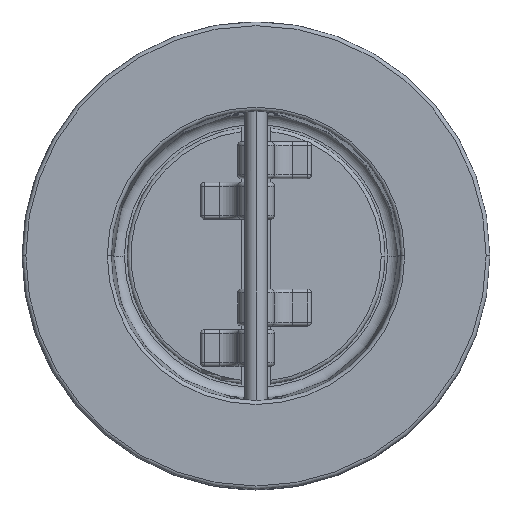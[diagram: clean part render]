
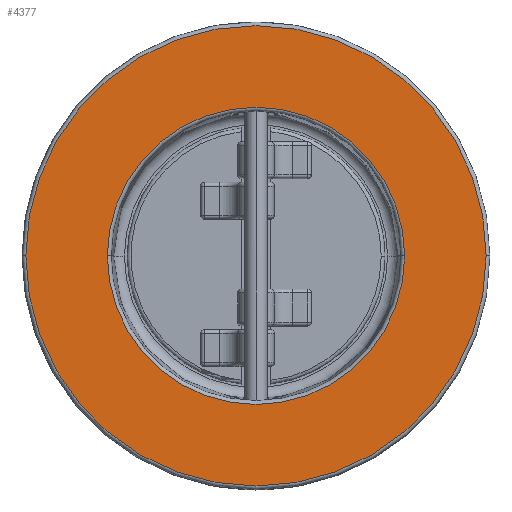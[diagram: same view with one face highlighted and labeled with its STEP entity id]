
A CAD part, top view. The second image highlights one B-rep face of the part: STEP entity #4377.
In plain terms, the highlighted planar face has unit normal (0, 0, 1).
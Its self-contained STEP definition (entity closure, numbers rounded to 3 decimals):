
#881 = DIRECTION ( 'NONE',  ( 1., 0., 0. ) ) ;
#930 = CARTESIAN_POINT ( 'NONE',  ( 40.361, 0., 23. ) ) ;
#1277 = ORIENTED_EDGE ( 'NONE', *, *, #7928, .T. ) ;
#1300 = AXIS2_PLACEMENT_3D ( 'NONE', #9359, #6125, #881 ) ;
#2011 = DIRECTION ( 'NONE',  ( 1., 0., 0. ) ) ;
#2422 = VERTEX_POINT ( 'NONE', #3208 ) ;
#2567 = PLANE ( 'NONE',  #12554 ) ;
#2689 = AXIS2_PLACEMENT_3D ( 'NONE', #6076, #11430, #2011 ) ;
#2925 = EDGE_CURVE ( 'NONE', #12832, #2422, #4875, .T. ) ;
#3123 = EDGE_CURVE ( 'NONE', #11148, #8746, #6428, .T. ) ;
#3208 = CARTESIAN_POINT ( 'NONE',  ( -40.361, 0., 23. ) ) ;
#4077 = CARTESIAN_POINT ( 'NONE',  ( 0., 0., 23. ) ) ;
#4228 = CIRCLE ( 'NONE', #11887, 40.361 ) ;
#4348 = CARTESIAN_POINT ( 'NONE',  ( -62.5, 0., 23. ) ) ;
#4377 = ADVANCED_FACE ( 'NONE', ( #4569, #8688 ), #2567, .T. ) ;
#4569 = FACE_OUTER_BOUND ( 'NONE', #6688, .T. ) ;
#4634 = CARTESIAN_POINT ( 'NONE',  ( 62.5, 0., 23. ) ) ;
#4649 = ORIENTED_EDGE ( 'NONE', *, *, #5036, .T. ) ;
#4875 = CIRCLE ( 'NONE', #5983, 40.361 ) ;
#5036 = EDGE_CURVE ( 'NONE', #2422, #12832, #4228, .T. ) ;
#5708 = CIRCLE ( 'NONE', #1300, 62.5 ) ;
#5983 = AXIS2_PLACEMENT_3D ( 'NONE', #6435, #6700, #9863 ) ;
#6076 = CARTESIAN_POINT ( 'NONE',  ( 0., 0., 23. ) ) ;
#6125 = DIRECTION ( 'NONE',  ( 0., 0., 1. ) ) ;
#6428 = CIRCLE ( 'NONE', #2689, 62.5 ) ;
#6435 = CARTESIAN_POINT ( 'NONE',  ( 0., 0., 23. ) ) ;
#6688 = EDGE_LOOP ( 'NONE', ( #1277, #8219 ) ) ;
#6700 = DIRECTION ( 'NONE',  ( 0., 0., -1. ) ) ;
#7066 = ORIENTED_EDGE ( 'NONE', *, *, #2925, .T. ) ;
#7161 = DIRECTION ( 'NONE',  ( 1., 0., 0. ) ) ;
#7601 = DIRECTION ( 'NONE',  ( 0., 0., 1. ) ) ;
#7928 = EDGE_CURVE ( 'NONE', #8746, #11148, #5708, .T. ) ;
#8219 = ORIENTED_EDGE ( 'NONE', *, *, #3123, .T. ) ;
#8688 = FACE_BOUND ( 'NONE', #9183, .T. ) ;
#8746 = VERTEX_POINT ( 'NONE', #4634 ) ;
#8758 = DIRECTION ( 'NONE',  ( 1., 0., 0. ) ) ;
#9183 = EDGE_LOOP ( 'NONE', ( #7066, #4649 ) ) ;
#9359 = CARTESIAN_POINT ( 'NONE',  ( 0., 0., 23. ) ) ;
#9863 = DIRECTION ( 'NONE',  ( 1., 0., 0. ) ) ;
#10451 = DIRECTION ( 'NONE',  ( 0., 0., -1. ) ) ;
#11148 = VERTEX_POINT ( 'NONE', #4348 ) ;
#11430 = DIRECTION ( 'NONE',  ( 0., 0., 1. ) ) ;
#11526 = CARTESIAN_POINT ( 'NONE',  ( 0., 0., 23. ) ) ;
#11887 = AXIS2_PLACEMENT_3D ( 'NONE', #4077, #10451, #7161 ) ;
#12554 = AXIS2_PLACEMENT_3D ( 'NONE', #11526, #7601, #8758 ) ;
#12832 = VERTEX_POINT ( 'NONE', #930 ) ;
